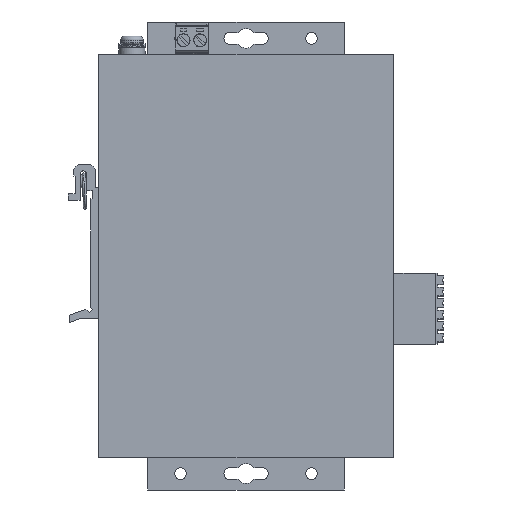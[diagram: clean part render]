
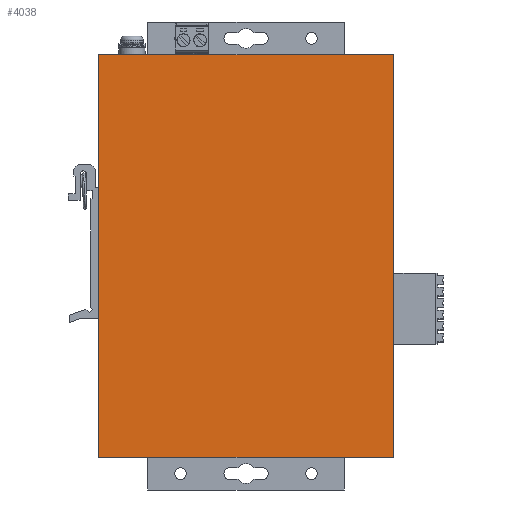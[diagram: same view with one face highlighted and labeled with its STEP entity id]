
A CAD part, left-side view. The second image highlights one B-rep face of the part: STEP entity #4038.
In plain terms, the highlighted planar face has unit normal (-1, 0, 0).
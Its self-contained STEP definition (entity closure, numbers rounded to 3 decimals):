
#738=CARTESIAN_POINT('',(-0.,90.,123.));
#739=VERTEX_POINT('',#738);
#746=CARTESIAN_POINT('',(-0.,0.,123.));
#747=VERTEX_POINT('',#746);
#748=CARTESIAN_POINT('',(-0.,0.,123.));
#749=DIRECTION('',(-0.,1.,-0.));
#750=VECTOR('',#749,90.);
#751=LINE('',#748,#750);
#752=EDGE_CURVE('',#747,#739,#751,.T.);
#3135=CARTESIAN_POINT('',(-0.,90.,-0.));
#3136=VERTEX_POINT('',#3135);
#3143=CARTESIAN_POINT('',(-0.,90.,123.));
#3144=DIRECTION('',(0.,0.,-1.));
#3145=VECTOR('',#3144,123.);
#3146=LINE('',#3143,#3145);
#3147=EDGE_CURVE('',#739,#3136,#3146,.T.);
#3922=CARTESIAN_POINT('',(0.,0.,0.));
#3923=VERTEX_POINT('',#3922);
#3924=CARTESIAN_POINT('',(0.,0.,0.));
#3925=DIRECTION('',(-0.,-0.,1.));
#3926=VECTOR('',#3925,123.);
#3927=LINE('',#3924,#3926);
#3928=EDGE_CURVE('',#3923,#747,#3927,.T.);
#4011=CARTESIAN_POINT('',(-0.,90.,-0.));
#4012=DIRECTION('',(0.,-1.,0.));
#4013=VECTOR('',#4012,90.);
#4014=LINE('',#4011,#4013);
#4015=EDGE_CURVE('',#3136,#3923,#4014,.T.);
#4027=CARTESIAN_POINT('',(-0.,45.,61.5));
#4028=DIRECTION('',(1.,0.,0.));
#4029=DIRECTION('',(-0.,-0.,1.));
#4030=AXIS2_PLACEMENT_3D('',#4027,#4028,#4029);
#4031=PLANE('',#4030);
#4032=ORIENTED_EDGE('',*,*,#3928,.T.);
#4033=ORIENTED_EDGE('',*,*,#752,.T.);
#4034=ORIENTED_EDGE('',*,*,#3147,.T.);
#4035=ORIENTED_EDGE('',*,*,#4015,.T.);
#4036=EDGE_LOOP('',(#4032,#4033,#4034,#4035));
#4037=FACE_BOUND('',#4036,.T.);
#4038=ADVANCED_FACE('',(#4037),#4031,.F.);
